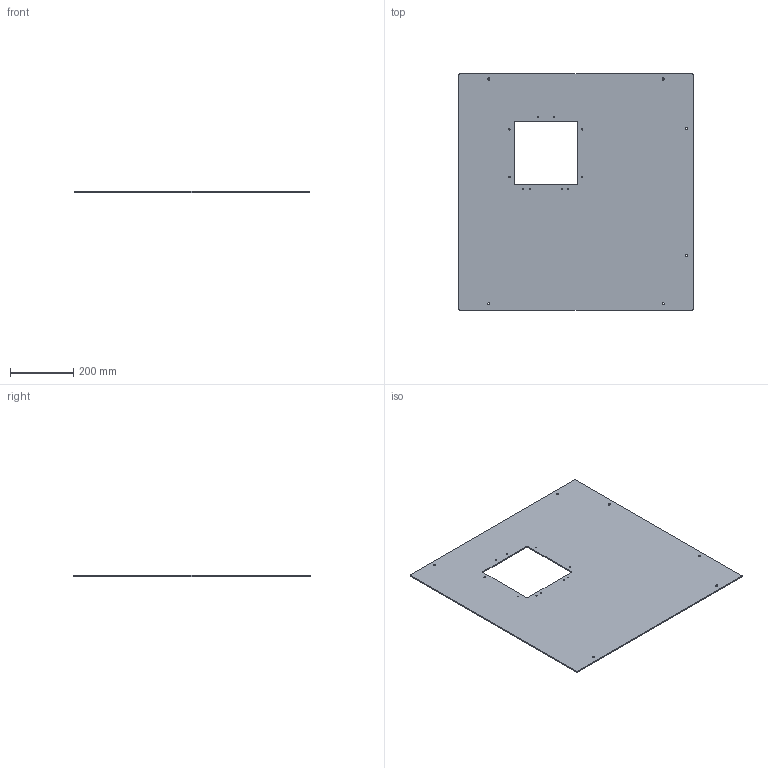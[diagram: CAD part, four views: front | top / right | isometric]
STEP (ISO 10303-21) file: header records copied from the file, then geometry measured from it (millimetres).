
FILE_DESCRIPTION(/* description */ (''),/* implementation_level */ '2;1');
FILE_NAME(/* name */ 'Side Module Front Panel 2.step',/* time_stamp */ '2026-05-13T16:28:24-07:00',/* author */ (''),/* organization */ (''),/* preprocessor_version */ 'ST-DEVELOPER v20.1',/* originating_system */ 'Autodesk Translation Framework v15.8.0.0',/* authorisation */ '');
FILE_SCHEMA (('AUTOMOTIVE_DESIGN { 1 0 10303 214 3 1 1 }'));
Length unit declared in the file: millimetre
Products named in the file (1): SIde Module Front Panel 2
Bounding box: 738.5 x 745 x 3.67 mm (x, y, z)
Volume: 1871084.3 mm3; surface area: 1034395 mm2
Topology: 1 solids, 1 shells, 34 faces, 96 edges, 64 vertices
Faces by surface type: cylinder 24, plane 10
Full cylindrical faces by diameter (mm): 3.332 x4, 4.234 x6, 7 x6
Entity records: 1229 total; most frequent: DIRECTION 214, CARTESIAN_POINT 195, ORIENTED_EDGE 192, EDGE_CURVE 96, AXIS2_PLACEMENT_3D 83, EDGE_LOOP 68, VERTEX_POINT 64, LINE 48
